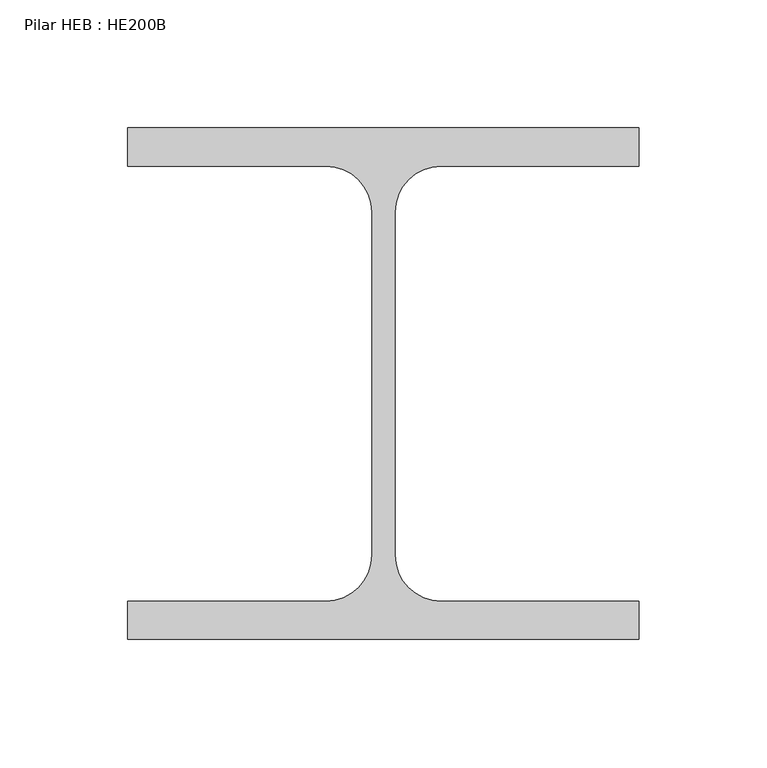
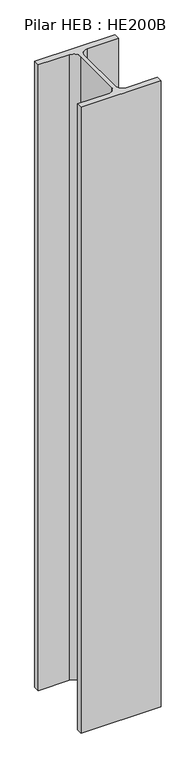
"""IFC4 building model written with IfcOpenShell, lengths in millimetres: column geometry, Pilar HEB : HE200B."""

from ifc_helpers import new_model, si_unit, point, frame, frame_2d, origin, place, context, project, spatial, polyline, circle_curve, trimmed, segment, composite_curve, outline, extrude, source, transform, mapped, element, save


def pilar_heb_he200b_2e70c724(model_context):
    return source(origin(), model_context, "Body", "SweptSolid", [
        extrude(outline(composite_curve([segment(polyline([(100.0, 100.0), (100.0, 85.0), (22.5, 85.0)]), True, "CONTINUOUS"), segment(trimmed(circle_curve(frame_2d((22.5, 67.0)), 18.0), [point((22.5, 85.0))], [point((4.5, 67.0))], True, "CARTESIAN"), True, "CONTINUOUS"), segment(polyline([(4.5, 67.0), (4.5, -67.0)]), True, "CONTINUOUS"), segment(trimmed(circle_curve(frame_2d((22.5, -67.0)), 18.0), [point((4.5, -67.0))], [point((22.5, -85.0))], True, "CARTESIAN"), True, "CONTINUOUS"), segment(polyline([(22.5, -85.0), (100.0, -85.0), (100.0, -100.0), (-100.0, -100.0), (-100.0, -85.0), (-22.5, -85.0)]), True, "CONTINUOUS"), segment(trimmed(circle_curve(frame_2d((-22.5, -67.0)), 18.0), [point((-22.5, -85.0))], [point((-4.5, -67.0))], True, "CARTESIAN"), True, "CONTINUOUS"), segment(polyline([(-4.5, -67.0), (-4.5, 67.0)]), True, "CONTINUOUS"), segment(trimmed(circle_curve(frame_2d((-22.5, 67.0)), 18.0), [point((-4.5, 67.0))], [point((-22.5, 85.0))], True, "CARTESIAN"), True, "CONTINUOUS"), segment(polyline([(-22.5, 85.0), (-100.0, 85.0), (-100.0, 100.0), (100.0, 100.0)]), True, "CONTINUOUS")], self_intersect=False)), frame((0.0, 0.0, -1000.0), z_axis=(0.0, 0.0, 1.0), x_axis=(1.0, 0.0, 0.0)), (0.0, 0.0, 1.0), 1650.0),
    ])


if __name__ == "__main__":
    model = new_model("IFC4")
    model_context = context("Model", 3, world=origin())
    ifc_project = project(units=[si_unit("LENGTHUNIT", "METRE", prefix="MILLI")], contexts=[model_context])
    site = spatial("IfcSite", under=ifc_project)
    building = spatial("IfcBuilding", under=site)
    placement = place(None, origin())
    pilar_heb_he200b_shape = pilar_heb_he200b_2e70c724(model_context)
    element("IfcColumn", 1, ObjectType="Pilar HEB : HE200B", at=placement, inside=building, context=model_context, shape_type="MappedRepresentation", body=[
        mapped(pilar_heb_he200b_shape, transform((0.0, 0.0, 0.0), x_axis=(1.0, 0.0, 0.0), y_axis=(0.0, 1.0, 0.0), z_axis=(0.0, 0.0, 1.0))),
    ])
    save(model, "model.ifc")
